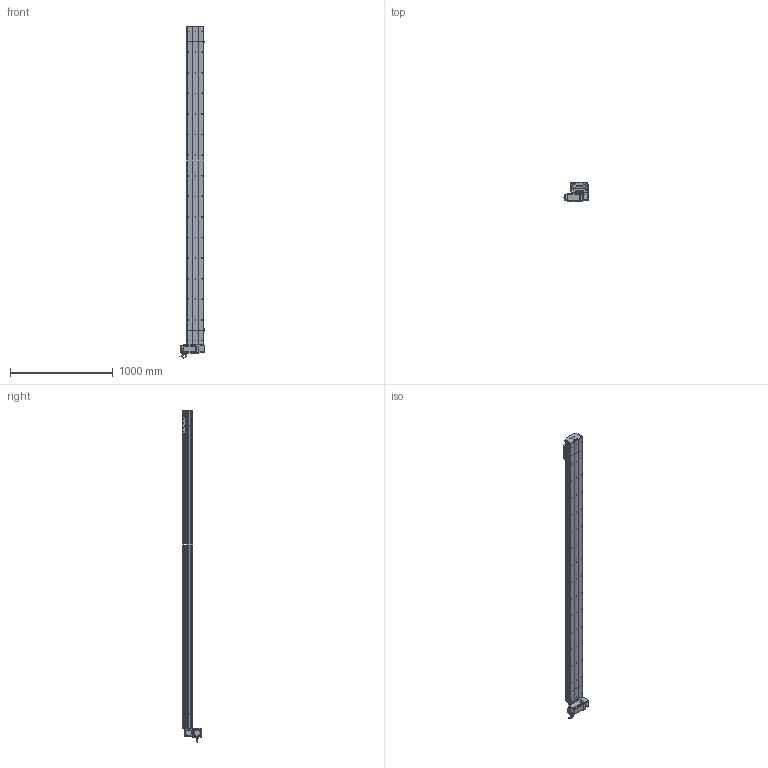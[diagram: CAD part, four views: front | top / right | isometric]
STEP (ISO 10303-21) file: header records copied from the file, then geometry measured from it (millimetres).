
FILE_DESCRIPTION (( 'STEP AP214' ), '1' );
FILE_NAME ('D17 TBH LU S2800.STEP', '2010-06-30T08:54:40', ( 'Christophe Gaillard' ), ( 'SGA' ), 'SwSTEP 2.0', 'SolidWorks 2010', '' );
FILE_SCHEMA (( 'AUTOMOTIVE_DESIGN' ));
Length unit declared in the file: millimetre
Products named in the file (40): vis M5 L12_Default; guide D17; vis M5 L8 90°_Default; couvercle D17B_Default; Couroie tail D17B_Default; poulie tail_Default; Chariot D17; chariot D17S_Default; vis M5 L25_Default; plaque de  bout tail D17B_Default; Rail D17B; tete d''axe poulie D17B; corpl tail D17B_Default; Tail D17B_Default; Vis M5 L16-2_Default; vis M5 L16_Default; Plaque racord D17_Default; corp D17B 2800_Default; Couroie+ rail D17 Course 2800 ; course 2800 D17B_Default; couvercle D17B head_Default; corpl head D17 _Default; Head LU D17B_Default; couvercle D17B course L2800_Default; Arbre+rail head D17B; plaque de  bout head D17B LU_Default; cache arbre D17_Default; poulie head_Default; vis M5 L5_Default; cache D17_Default; Moteur motionking 90BLDC125A-640; Renvoi LU_Default; couroie head D17_Default; codeur 90BLDC125-640; corps 90BLDC125A-640; avant 90BLDC125A-640; vis M5 L70_Default; Conecteur_Default; Conecteur2_Default; D17 TBH LU S2800
Assembly tree (70 placements, depth 4):
  D17 TBH LU S2800
    Tail D17B_Default
      vis M5 L12_Default  x4
      Rail D17B
      Couroie tail D17B_Default
      vis M5 L25_Default  x2
      poulie tail_Default
      vis M5 L8 90°_Default  x2
      couvercle D17B_Default
      tete d''axe poulie D17B
      corpl tail D17B_Default
      plaque de  bout tail D17B_Default
    chariot D17S_Default
      vis M5 L12_Default  x4
      guide D17  x2
      Chariot D17
    Head LU D17B_Default
      vis M5 L12_Default  x8
      Vis M5 L16-2_Default  x4
      vis M5 L70_Default  x4
      cache D17_Default  x2
      vis M5 L16_Default  x2
      corpl head D17 _Default
      vis M5 L5_Default  x4
      Moteur motionking 90BLDC125A-640
        Conecteur2_Default
        Conecteur_Default
        codeur 90BLDC125-640
        avant 90BLDC125A-640
        corps 90BLDC125A-640
      Plaque racord D17_Default
      poulie head_Default
      Renvoi LU_Default
      couvercle D17B head_Default
      plaque de  bout head D17B LU_Default
      cache arbre D17_Default
      vis M5 L25_Default  x2
      Arbre+rail head D17B
      couroie head D17_Default
    course 2800 D17B_Default
      couvercle D17B course L2800_Default
      corp D17B 2800_Default
      Couroie+ rail D17 Course 2800 
Bounding box: 245.2 x 188.65 x 3223.95 mm (x, y, z)
Volume: 18459791.7 mm3; surface area: 5368246.8 mm2
Topology: 94 solids, 94 shells, 2761 faces, 7041 edges, 4530 vertices
Faces by surface type: plane 1607, cylinder 841, bspline 136, cone 88, torus 85, sphere 4
Entity records: 87288 total; most frequent: CARTESIAN_POINT 25613, ORIENTED_EDGE 10854, DIRECTION 10284, EDGE_CURVE 5427, VERTEX_POINT 3554, VECTOR 3534, LINE 3534, AXIS2_PLACEMENT_3D 3375
